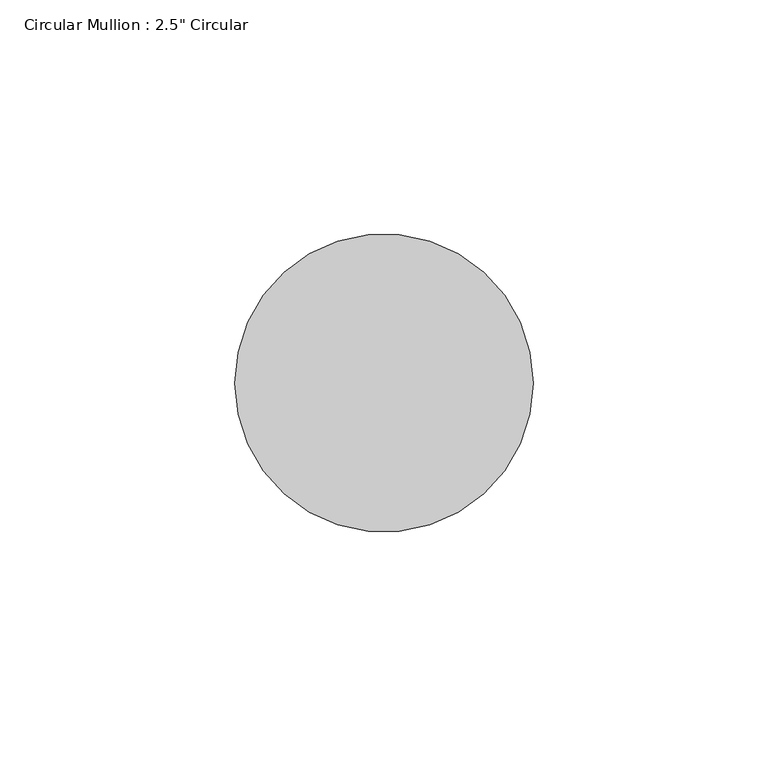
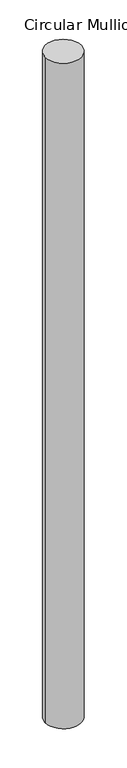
"""IFC4 building model written with IfcOpenShell, lengths in millimetres: member geometry."""

from ifc_helpers import new_model, si_unit, point, frame, origin, origin_2d, place, context, project, spatial, circle_curve, trimmed, segment, composite_curve, outline, extrude, source, transform, mapped, element, save


def member_fc45a8ce(model_context):
    return source(origin(), model_context, "Body", "SweptSolid", [
        extrude(outline(composite_curve([segment(trimmed(circle_curve(origin_2d(), 31.75), [point((31.75, 0.0))], [point((-31.75, 0.0))], False, "CARTESIAN"), True, "CONTINUOUS"), segment(trimmed(circle_curve(origin_2d(), 31.75), [point((-31.75, 0.0))], [point((31.75, 0.0))], False, "CARTESIAN"), True, "CONTINUOUS")], self_intersect=False)), frame((0.0, 0.0, -1230.9710357), z_axis=(0.0, 0.0, 1.0), x_axis=(1.0, 0.0, 0.0)), (0.0, 0.0, 1.0), 1230.9710357),
    ])


if __name__ == "__main__":
    model = new_model("IFC4")
    model_context = context("Model", 3, world=origin())
    ifc_project = project(units=[si_unit("LENGTHUNIT", "METRE", prefix="MILLI")], contexts=[model_context])
    site = spatial("IfcSite", under=ifc_project)
    building = spatial("IfcBuilding", under=site)
    placement = place(None, origin())
    member_shape = member_fc45a8ce(model_context)
    element("IfcMember", 1, ObjectType="Circular Mullion : 2.5\" Circular", at=placement, inside=building, context=model_context, shape_type="MappedRepresentation", body=[
        mapped(member_shape, transform((0.0, 0.0, 0.0), x_axis=(1.0, 0.0, 0.0), y_axis=(0.0, 1.0, 0.0), z_axis=(0.0, 0.0, 1.0))),
    ])
    save(model, "model.ifc")
